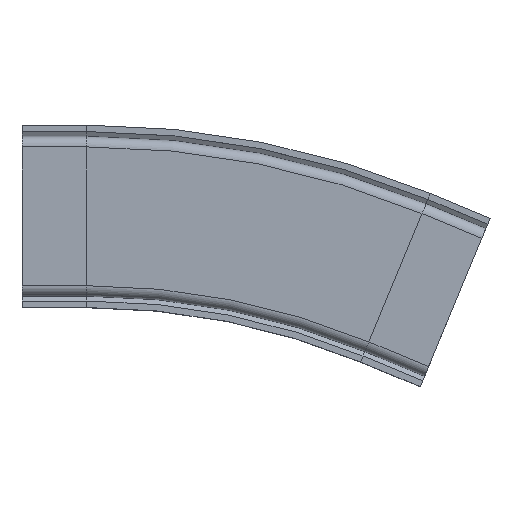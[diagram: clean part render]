
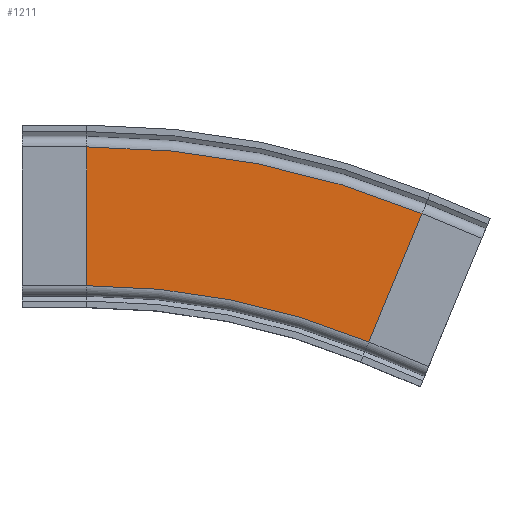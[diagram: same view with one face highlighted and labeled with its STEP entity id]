
A CAD part, top view. The second image highlights one B-rep face of the part: STEP entity #1211.
In plain terms, the highlighted planar face has unit normal (0, 0, 1).
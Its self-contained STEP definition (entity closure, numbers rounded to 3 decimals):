
#58 = DIRECTION ( 'NONE',  ( 1., 0., 0. ) ) ;
#80 = EDGE_LOOP ( 'NONE', ( #1551, #5631, #929, #4404 ) ) ;
#907 = CARTESIAN_POINT ( 'NONE',  ( 40., 43., 42.5 ) ) ;
#929 = ORIENTED_EDGE ( 'NONE', *, *, #5124, .T. ) ;
#957 = DIRECTION ( 'NONE',  ( 0., 0., -1. ) ) ;
#1077 = AXIS2_PLACEMENT_3D ( 'NONE', #5405, #2362, #1114 ) ;
#1114 = DIRECTION ( 'NONE',  ( 1., 0., 0. ) ) ;
#1153 = AXIS2_PLACEMENT_3D ( 'NONE', #2680, #5326, #58 ) ;
#1211 = ADVANCED_FACE ( 'NONE', ( #3044 ), #3559, .F. ) ;
#1245 = CARTESIAN_POINT ( 'NONE',  ( 247.797, 1.667, 42.5 ) ) ;
#1551 = ORIENTED_EDGE ( 'NONE', *, *, #3686, .T. ) ;
#1709 = CARTESIAN_POINT ( 'NONE',  ( 214.886, -77.787, 42.5 ) ) ;
#2007 = VERTEX_POINT ( 'NONE', #1709 ) ;
#2347 = CIRCLE ( 'NONE', #1153, 457. ) ;
#2352 = VECTOR ( 'NONE', #5587, 1000. ) ;
#2362 = DIRECTION ( 'NONE',  ( 0., 0., 1. ) ) ;
#2434 = CARTESIAN_POINT ( 'NONE',  ( 40., 0., 42.5 ) ) ;
#2500 = VECTOR ( 'NONE', #2936, 1000. ) ;
#2511 = AXIS2_PLACEMENT_3D ( 'NONE', #4888, #957, #3526 ) ;
#2667 = VERTEX_POINT ( 'NONE', #1245 ) ;
#2680 = CARTESIAN_POINT ( 'NONE',  ( 40., -500., 42.5 ) ) ;
#2930 = VERTEX_POINT ( 'NONE', #907 ) ;
#2936 = DIRECTION ( 'NONE',  ( 0., -1., 0. ) ) ;
#3044 = FACE_OUTER_BOUND ( 'NONE', #80, .T. ) ;
#3526 = DIRECTION ( 'NONE',  ( -1., 0., 0. ) ) ;
#3559 = PLANE ( 'NONE',  #2511 ) ;
#3641 = CIRCLE ( 'NONE', #1077, 543. ) ;
#3686 = EDGE_CURVE ( 'NONE', #2930, #3988, #5038, .T. ) ;
#3988 = VERTEX_POINT ( 'NONE', #5304 ) ;
#4404 = ORIENTED_EDGE ( 'NONE', *, *, #4940, .T. ) ;
#4888 = CARTESIAN_POINT ( 'NONE',  ( 214.886, -77.787, 42.5 ) ) ;
#4940 = EDGE_CURVE ( 'NONE', #2667, #2930, #3641, .T. ) ;
#5038 = LINE ( 'NONE', #2434, #2500 ) ;
#5124 = EDGE_CURVE ( 'NONE', #2007, #2667, #5155, .T. ) ;
#5143 = CARTESIAN_POINT ( 'NONE',  ( 214.886, -77.787, 42.5 ) ) ;
#5155 = LINE ( 'NONE', #5143, #2352 ) ;
#5297 = EDGE_CURVE ( 'NONE', #2007, #3988, #2347, .T. ) ;
#5304 = CARTESIAN_POINT ( 'NONE',  ( 40., -43., 42.5 ) ) ;
#5326 = DIRECTION ( 'NONE',  ( 0., 0., 1. ) ) ;
#5405 = CARTESIAN_POINT ( 'NONE',  ( 40., -500., 42.5 ) ) ;
#5587 = DIRECTION ( 'NONE',  ( 0.383, 0.924, 0. ) ) ;
#5631 = ORIENTED_EDGE ( 'NONE', *, *, #5297, .F. ) ;
